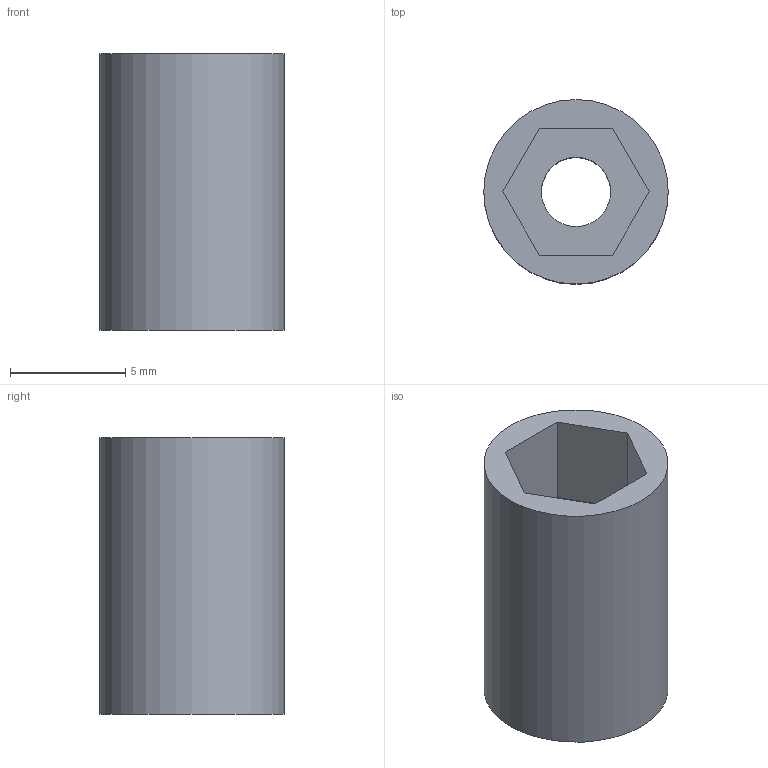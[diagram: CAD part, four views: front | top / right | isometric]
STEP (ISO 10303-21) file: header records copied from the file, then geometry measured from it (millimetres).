
FILE_DESCRIPTION(/* description */ (''),/* implementation_level */ '2;1');
FILE_NAME(/* name */ 'D:\Documents\Projects\Pan Tilt Mount\CAD STEP files\Gear Side Bearing Mount.stp',/* time_stamp */ '2020-06-08T18:40:34+01:00',/* author */ ('isaac879'),/* organization */ (''),/* preprocessor_version */ 'ST-DEVELOPER v18',/* originating_system */ 'Autodesk Inventor 2020',/* authorisation */ '');
FILE_SCHEMA (('AUTOMOTIVE_DESIGN { 1 0 10303 214 3 1 1 }'));
Length unit declared in the file: millimetre
Products named in the file (1): Gear Side Bearing Mount
Bounding box: 8 x 8 x 12 mm (x, y, z)
Volume: 441.8 mm3; surface area: 539.6 mm2
Topology: 1 solids, 1 shells, 11 faces, 26 edges, 18 vertices
Faces by surface type: plane 9, cylinder 2
Full cylindrical faces by diameter (mm): 3 x1, 8 x1
Entity records: 367 total; most frequent: DIRECTION 56, CARTESIAN_POINT 56, ORIENTED_EDGE 52, EDGE_CURVE 26, LINE 20, VECTOR 20, VERTEX_POINT 18, AXIS2_PLACEMENT_3D 18
